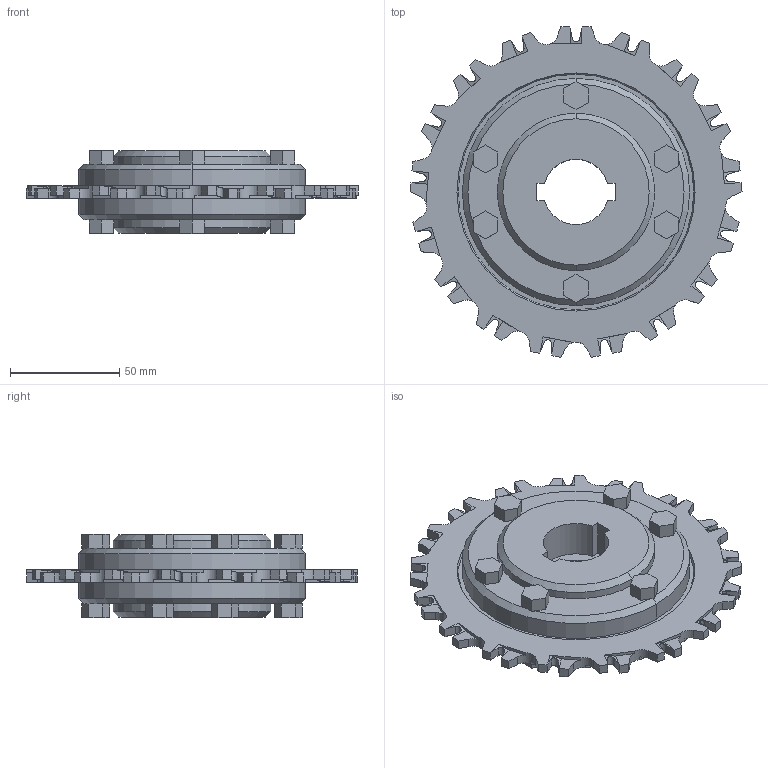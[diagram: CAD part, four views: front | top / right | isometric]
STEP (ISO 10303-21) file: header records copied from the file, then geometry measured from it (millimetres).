
FILE_DESCRIPTION((''),'2;1');
FILE_NAME('S900_SPL_PLASTIC_58_ROUND_ASM','2008-12-12T',('jmumphre'),(''),'PRO/ENGINEER BY PARAMETRIC TECHNOLOGY CORPORATION, 2008150','PRO/ENGINEER BY PARAMETRIC TECHNOLOGY CORPORATION, 2008150','');
FILE_SCHEMA(('CONFIG_CONTROL_DESIGN'));
Length unit declared in the file: inch
Products named in the file (5): S900_TP_PLASTIC_58X2_SQ_AF0; JOINING_PLATE_5_ROUND_AF2; JOINING_PLATE_5_ROUND_AF3; BOLTS_N_NUTS_3-480X1-004_AF0; S900_SPL_PLASTIC_58_ROUND_ASM
Assembly tree (4 placements, depth 2):
  S900_SPL_PLASTIC_58_ROUND_ASM
    S900_TP_PLASTIC_58X2_SQ_AF0
    JOINING_PLATE_5_ROUND_AF2
    JOINING_PLATE_5_ROUND_AF3
    BOLTS_N_NUTS_3-480X1-004_AF0
Bounding box: 152.21 x 151.57 x 38.2 mm (x, y, z)
Volume: 277612.4 mm3; surface area: 85861.4 mm2
Topology: 9 solids, 9 shells, 437 faces, 1201 edges, 798 vertices
Faces by surface type: plane 326, cylinder 99, cone 12
Entity records: 14627 total; most frequent: CARTESIAN_POINT 3154, ORIENTED_EDGE 2402, DIRECTION 2265, EDGE_CURVE 1201, VECTOR 953, LINE 953, VERTEX_POINT 798, AXIS2_PLACEMENT_3D 656
